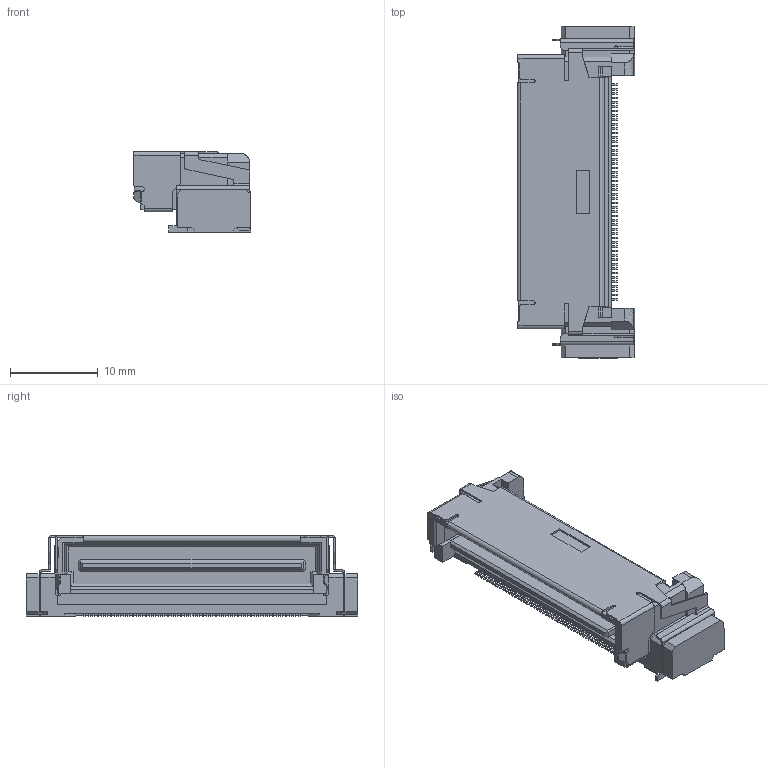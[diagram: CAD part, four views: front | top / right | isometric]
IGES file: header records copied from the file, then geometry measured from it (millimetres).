
Start section: Elysium IGES Interface
Global section: file name: C:\Users\1390\Desktop\P3E586_DT00S-100L.igs; native system: Creo Elements/Direct Modeling 20.6  25-Mar-2023; preprocessor: Creo Element/Direct IGES_3D V2.2; author: Unknown; organization: Unknown; date: 20230822.170857; units: millimetre
Bounding box: 13.46 x 37.92 x 9.25 mm (x, y, z)
Volume: 2254.8 mm3; surface area: 2339.6 mm2
Topology: 1 solids, 1 shells, 1851 faces, 5009 edges, 3254 vertices
Faces by surface type: bspline 1851
